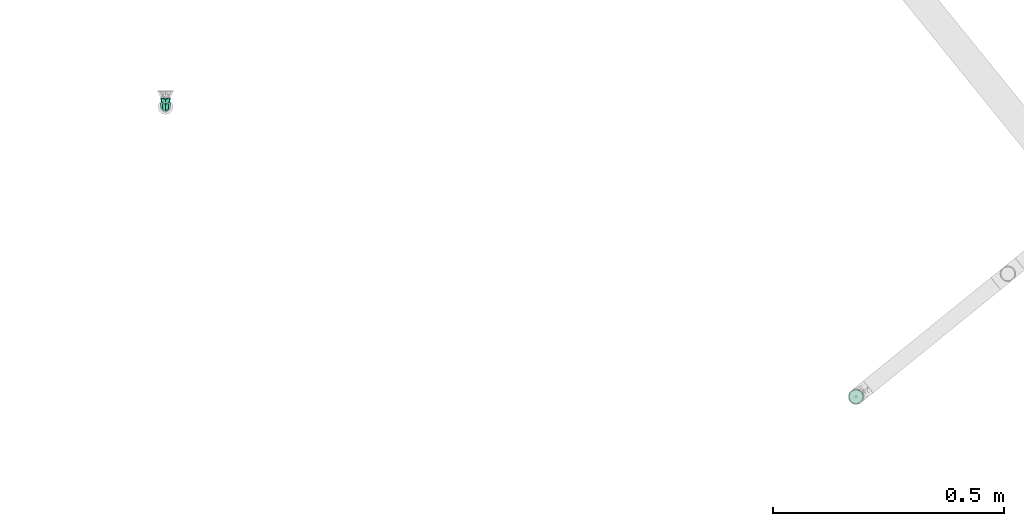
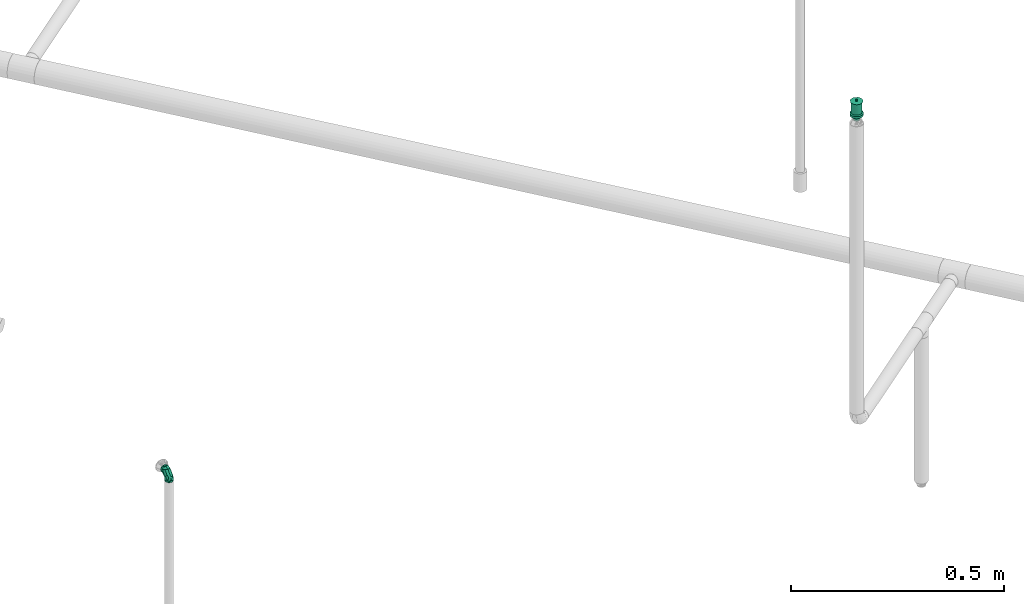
# One storey, part 66 of 94: 1 flow fitting, 1 flow terminal.
"""IFC2X3 building model written with IfcOpenShell, lengths in millimetres."""

import ifcopenshell
import ifcopenshell.guid

model = None  # the IFC model being written
_history = None  # IfcOwnerHistory: only IFC2X3 demands one
_inside = {}  # id of a spatial element -> (the spatial element, [elements in it])
_under = {}  # id of a project, library or spatial element -> (it, [spatial elements below it])
_declared = {}  # id of a project -> (the project, [libraries it declares])
_typed = {}  # id of a type object -> (the type object, [elements of that type])
_made_of = {}  # id of a material, layer set ... -> (it, [elements and type objects made of it])


def new_model(schema):
    """Start an empty IFC model of exactly this schema.

    Asked for "IFC4X3", IfcOpenShell would pick the latest addendum, in which some entities
    have other attributes; the version numbers below select the first issue.
    IFC2X3 requires an IfcOwnerHistory on every rooted entity: one is made here for all.
    """
    global model, _history
    if schema == "IFC4X3":
        model = ifcopenshell.file(schema_version=(4, 3, 0, 0))
    else:
        model = ifcopenshell.file(schema=schema)
    _inside.clear()
    _under.clear()
    _declared.clear()
    _typed.clear()
    _made_of.clear()
    _history = None
    if model.schema == "IFC2X3":
        org = make("IfcOrganization", Name="unknown")
        user = make(
            "IfcPersonAndOrganization",
            ThePerson=make("IfcPerson", FamilyName="unknown"),
            TheOrganization=org,
        )
        app = make(
            "IfcApplication",
            ApplicationDeveloper=org,
            Version="unknown",
            ApplicationFullName="unknown",
            ApplicationIdentifier="unknown",
        )
        _history = make(
            "IfcOwnerHistory",
            OwningUser=user,
            OwningApplication=app,
            ChangeAction="ADDED",
            CreationDate=0,
        )
    return model


def make(cls, **values):
    """One entity of the class cls with the attributes given. An attribute that is None is left unset."""
    return model.create_entity(
        cls, **{name: value for name, value in values.items() if value is not None}
    )


def entity(cls, *values):
    """Any entity or typed value of the class cls, its attributes in the order of the schema. None: left unset."""
    e = model.create_entity(cls)
    for i, value in enumerate(values):
        if value is not None:
            e[i] = value
    return e


def rooted(cls, **values):
    """An entity with a GlobalId (a new one), such as an element, a storey or a relation."""
    return make(cls, GlobalId=ifcopenshell.guid.new(), OwnerHistory=_history, **values)


def si_unit(unit_type, name, prefix=None):
    """IfcSIUnit, for example si_unit("LENGTHUNIT", "METRE", prefix="MILLI")."""
    return make("IfcSIUnit", UnitType=unit_type, Prefix=prefix, Name=name)


def converted_unit(unit_type, name, factor, base, dimensions=None, offset=None):
    """IfcConversionBasedUnit, such as the inch: factor (a typed value) times the base unit."""
    return make(
        "IfcConversionBasedUnit"
        if offset is None
        else "IfcConversionBasedUnitWithOffset",
        ConversionOffset=offset,
        Dimensions=None
        if dimensions is None
        else entity("IfcDimensionalExponents", *dimensions),
        UnitType=unit_type,
        Name=name,
        ConversionFactor=make(
            "IfcMeasureWithUnit", ValueComponent=factor, UnitComponent=base
        ),
    )


def derived_unit(unit_type, elements):
    """IfcDerivedUnit: a product of units, each with its exponent."""
    return make(
        "IfcDerivedUnit",
        Elements=[
            make("IfcDerivedUnitElement", Unit=unit, Exponent=power)
            for unit, power in elements
        ],
        UnitType=unit_type,
    )


def assignment(units):
    """IfcUnitAssignment: the units of a project."""
    return None if units is None else make("IfcUnitAssignment", Units=units)


def point(xyz):
    """IfcCartesianPoint."""
    return None if xyz is None else make("IfcCartesianPoint", Coordinates=xyz)


def direction(xyz):
    """IfcDirection."""
    return None if xyz is None else make("IfcDirection", DirectionRatios=xyz)


def frame(location, z_axis=None, x_axis=None):
    """IfcAxis2Placement3D, a coordinate frame: its origin and axes. An axis left out is left unset."""
    return make(
        "IfcAxis2Placement3D",
        Location=point(location),
        Axis=direction(z_axis),
        RefDirection=direction(x_axis),
    )


def origin_with_axes():
    """The frame at (0, 0, 0) with the z axis (0, 0, 1) and the x axis (1, 0, 0) written out."""
    return frame((0.0, 0.0, 0.0), z_axis=(0.0, 0.0, 1.0), x_axis=(1.0, 0.0, 0.0))


def place(relative_to, where):
    """IfcLocalPlacement: puts the frame where relative to a parent placement (None: the world)."""
    return make(
        "IfcLocalPlacement", PlacementRelTo=relative_to, RelativePlacement=where
    )


def context(
    kind, dimensions, precision=None, world=None, true_north=None, identifier=None
):
    """IfcGeometricRepresentationContext, for example the 3D "Model" context."""
    return make(
        "IfcGeometricRepresentationContext",
        ContextIdentifier=identifier,
        ContextType=kind,
        CoordinateSpaceDimension=dimensions,
        Precision=precision,
        WorldCoordinateSystem=world,
        TrueNorth=true_north,
    )


def subcontext(parent, identifier, kind, view, scale=None):
    """IfcGeometricRepresentationSubContext, for example "Body" below "Model"."""
    return make(
        "IfcGeometricRepresentationSubContext",
        ContextIdentifier=identifier,
        ContextType=kind,
        ParentContext=parent,
        TargetScale=scale,
        TargetView=view,
    )


def project(units=None, contexts=None):
    """IfcProject with its units and contexts."""
    return rooted(
        "IfcProject",
        Name="project",
        RepresentationContexts=contexts,
        UnitsInContext=assignment(units),
    )


def spatial(cls, under=None, at=None, **own):
    """A site, building, storey or space (cls), placed at a placement, below another one or the project."""
    s = rooted(cls, ObjectPlacement=at, **own)
    if under is not None:
        _under.setdefault(under.id(), (under, []))[1].append(s)
    return s


def faces_of(points, faces, orient=None, outer=None):
    """IfcFace entities. A face is a list of loops; a loop is a list of indices into points, from 0.

    orient and outer hold one flag for each loop. By default every Orientation is true, the
    first loop of a face is its IfcFaceOuterBound and the others are IfcFaceBound.
    """
    made = []
    for i, loops in enumerate(faces):
        bounds = []
        for j, loop in enumerate(loops):
            is_outer = j == 0 if outer is None else outer[i][j]
            bounds.append(
                make(
                    "IfcFaceOuterBound" if is_outer else "IfcFaceBound",
                    Bound=make("IfcPolyLoop", Polygon=[points[k] for k in loop]),
                    Orientation=True if orient is None else orient[i][j],
                )
            )
        made.append(make("IfcFace", Bounds=bounds))
    return made


def open_shell(faces, orient=None, outer=None):
    """The faces of one IfcOpenShell. surface_model builds it on its shared points."""
    return ("IfcOpenShell", faces, orient, outer)


def surface_model(cls, points, shells):
    """IfcFaceBasedSurfaceModel or IfcShellBasedSurfaceModel (cls): surfaces that need not close."""
    shared = [point(p) for p in points]
    made = [make(c, CfsFaces=faces_of(shared, fs, o, b)) for c, fs, o, b in shells]
    if cls == "IfcFaceBasedSurfaceModel":
        return make(cls, FbsmFaces=made)
    return make(cls, SbsmBoundary=made)


def shape(context_of_items, identifier, shape_type, items):
    """IfcShapeRepresentation: the items that make up one representation, for example the "Body"."""
    return make(
        "IfcShapeRepresentation",
        ContextOfItems=context_of_items,
        RepresentationIdentifier=identifier,
        RepresentationType=shape_type,
        Items=items,
    )


def source(mapping_origin, context_of_items, identifier, shape_type, items):
    """IfcRepresentationMap: a shape defined once, which mapped items show again and again."""
    return make(
        "IfcRepresentationMap",
        MappingOrigin=mapping_origin,
        MappedRepresentation=shape(context_of_items, identifier, shape_type, items),
    )


def transform(
    local_origin,
    x_axis=None,
    y_axis=None,
    z_axis=None,
    scale=None,
    scale2=None,
    scale3=None,
    uniform=True,
):
    """IfcCartesianTransformationOperator3D, or its non-uniform kind. x_axis, y_axis, z_axis: its Axis1, 2, 3."""
    if uniform:
        return make(
            "IfcCartesianTransformationOperator3D",
            Axis1=direction(x_axis),
            Axis2=direction(y_axis),
            LocalOrigin=point(local_origin),
            Scale=scale,
            Axis3=direction(z_axis),
        )
    return make(
        "IfcCartesianTransformationOperator3DnonUniform",
        Axis1=direction(x_axis),
        Axis2=direction(y_axis),
        LocalOrigin=point(local_origin),
        Scale=scale,
        Axis3=direction(z_axis),
        Scale2=scale2,
        Scale3=scale3,
    )


def mapped(mapping_source, mapping_target):
    """IfcMappedItem: shows the shape of a source again, moved by a transform."""
    return make(
        "IfcMappedItem", MappingSource=mapping_source, MappingTarget=mapping_target
    )


def made_of(thing, what):
    """Note that an element or type object is made of a material, layer set ...; save() writes the relation."""
    if what is not None:
        _made_of.setdefault(what.id(), (what, []))[1].append(thing)
    return thing


def type_object(cls, material=None, **own):
    """A type object (cls), such as IfcWallType, which elements share."""
    return made_of(rooted(cls, **own), material)


def element(
    cls,
    number,
    at=None,
    inside=None,
    cuts=None,
    type_object=None,
    material=None,
    context=None,
    identifier="Body",
    shape_type=None,
    held_by="IfcProductDefinitionShape",
    body=None,
    shapes=None,
    **own,
):
    """One element of the class cls, such as IfcWall. Its Tag is "e" and its number.

    at: its placement. inside: the storey or other place that contains it. cuts: it is an
    opening in that element (IfcRelVoidsElement). A single representation is given by context,
    identifier, shape_type and body (its items); several are given by shapes. held_by: the class
    of the entity that holds the representations. save() writes the other relations.
    """
    e = rooted(cls, Tag="e%d" % number, ObjectPlacement=at, **own)
    if body is not None:
        shapes = [shape(context, identifier, shape_type, body)]
    if shapes is not None:
        e.Representation = make(held_by, Representations=shapes)
    if inside is not None:
        _inside.setdefault(inside.id(), (inside, []))[1].append(e)
    if cuts is not None:
        rooted(
            "IfcRelVoidsElement", RelatingBuildingElement=cuts, RelatedOpeningElement=e
        )
    if type_object is not None:
        _typed.setdefault(type_object.id(), (type_object, []))[1].append(e)
    return made_of(e, material)


def aggregate(whole, parts):
    """IfcRelAggregates: a whole, such as a stair, and the parts it consists of."""
    return rooted("IfcRelAggregates", RelatingObject=whole, RelatedObjects=parts)


def save(model, path):
    """Write the relations noted so far, then the file.

    IfcRelAggregates (storeys below a building ...), IfcRelContainedInSpatialStructure (elements
    in a storey), IfcRelDefinesByType, IfcRelAssociatesMaterial and IfcRelDeclares: one each for
    every whole, place, type object, material and project.
    """
    for whole, parts in _under.values():
        aggregate(whole, parts)
    for where, things in _inside.values():
        rooted(
            "IfcRelContainedInSpatialStructure",
            RelatedElements=things,
            RelatingStructure=where,
        )
    for kind, things in _typed.values():
        rooted("IfcRelDefinesByType", RelatedObjects=things, RelatingType=kind)
    for what, things in _made_of.values():
        rooted("IfcRelAssociatesMaterial", RelatedObjects=things, RelatingMaterial=what)
    for by, libraries in _declared.values():
        rooted("IfcRelDeclares", RelatingContext=by, RelatedDefinitions=libraries)
    model.write(path)


model = new_model("IFC2X3")

# Units and contexts
model_context = context("Model", 3, precision=0.01, world=frame((0.0, 4.29681676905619e-09, 0.0)), true_north=direction((4.01073788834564e-13, 1.0)))
plan_context = context("Plan", 3, precision=0.01, world=frame((0.0, 4.29681676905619e-09, 0.0)), true_north=direction((4.01073788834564e-13, 1.0)))
body_context = subcontext(model_context, "Body", "Model", "MODEL_VIEW")
ifc_project = project(units=[converted_unit("PLANEANGLEUNIT", "DEGREE", entity("IfcPositiveLengthMeasure", 0.0174532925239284), si_unit("PLANEANGLEUNIT", "RADIAN"), dimensions=[0, 0, 0, 0, 0, 0, 0]), si_unit("AREAUNIT", "SQUARE_METRE"), si_unit("LENGTHUNIT", "METRE", prefix="MILLI"), si_unit("MASSUNIT", "GRAM", prefix="KILO"), si_unit("POWERUNIT", "WATT"), si_unit("PRESSUREUNIT", "PASCAL", prefix="KILO"), si_unit("FORCEUNIT", "NEWTON", prefix="KILO"), si_unit("ELECTRICVOLTAGEUNIT", "VOLT"), si_unit("ELECTRICCURRENTUNIT", "AMPERE"), si_unit("THERMODYNAMICTEMPERATUREUNIT", "DEGREE_CELSIUS"), si_unit("TIMEUNIT", "SECOND"), si_unit("VOLUMEUNIT", "CUBIC_METRE"), derived_unit("LINEARVELOCITYUNIT", [(si_unit("LENGTHUNIT", "METRE"), 1), (si_unit("TIMEUNIT", "SECOND"), -1)]), derived_unit("VOLUMETRICFLOWRATEUNIT", [(si_unit("VOLUMEUNIT", "CUBIC_METRE"), 1), (si_unit("TIMEUNIT", "SECOND"), -1)]), derived_unit("THERMALTRANSMITTANCEUNIT", [(si_unit("POWERUNIT", "WATT"), 1), (si_unit("THERMODYNAMICTEMPERATUREUNIT", "KELVIN"), -1), (si_unit("AREAUNIT", "SQUARE_METRE"), -1)]), derived_unit("SOUNDPRESSUREUNIT", [(si_unit("PRESSUREUNIT", "PASCAL"), 1)])], contexts=[model_context, plan_context])

# Site, building, storey
site_placement = place(None, frame((0.0, -4.29681676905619e-09, 0.0), z_axis=(0.0, 0.0, 1.0), x_axis=(1.0, 0.0, 0.0)))
site = spatial("IfcSite", under=ifc_project, at=site_placement, CompositionType="ELEMENT")
building_placement = place(site_placement, frame((0.0, 4.29681676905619e-09, 0.0), z_axis=(0.0, 0.0, 1.0), x_axis=(1.0, 0.0, 0.0)))
building = spatial("IfcBuilding", under=site, at=building_placement, Name="mc-building", CompositionType="ELEMENT")
storey_placement = place(building_placement, frame((0.0, 0.0, 210900.0), z_axis=(0.0, 0.0, 1.0), x_axis=(1.0, 0.0, 0.0)))
storey = spatial("IfcBuildingStorey", under=building, at=storey_placement, Name="Nivå F", CompositionType="ELEMENT", Elevation=210900.0)

# Flow fitting
pipe_fitting_type = type_object("IfcPipeFittingType", Name="magi_pipe_fe_elbow_short_001", PredefinedType="BEND")
shared_shape_1 = source(origin_with_axes(), body_context, "Body", "SurfaceModel", [
    surface_model("IfcShellBasedSurfaceModel", [(-21.4, 2.76936, -10.33541), (-21.4, 0.0, -10.7), (-21.4, 7.56604, -7.56604), (-21.4, 5.35, -9.26647), (-21.4, 10.33541, -2.76936), (-21.4, 9.26647, -5.35), (-21.4, -7.56604, 7.56604), (-21.4, -5.35, -9.26647), (-21.4, -5.35, 9.26647), (-21.4, -7.56604, -7.56604), (-21.4, -9.26647, -5.35), (-21.4, -2.76936, -10.33541), (-21.4, -10.33541, -2.76936), (-21.4, -10.7, 0.0), (-21.4, 10.7, 0.0), (-21.4, 10.33541, 2.76936), (-21.4, 9.26647, 5.35), (-21.4, 7.56604, 7.56604), (-21.4, 5.35, 9.26647), (-21.4, 2.76936, 10.33541), (-21.4, -10.33541, 2.76936), (-21.4, -9.26647, 5.35), (-21.4, -2.76936, 10.33541), (-21.4, 0.0, 10.7), (-7.56604, 21.4, -7.56604), (0.0, 21.4, -10.7), (-2.76936, 21.4, -10.33541), (-5.35, 21.4, -9.26647), (-9.26647, 21.4, -5.35), (-10.33541, 21.4, -2.76936), (10.7, 21.4, 0.0), (5.35, 21.4, -9.26647), (9.26647, 21.4, -5.35), (7.56604, 21.4, -7.56604), (2.76936, 21.4, -10.33541), (10.33541, 21.4, -2.76936), (-10.33541, 21.4, 2.76936), (5.35, 21.4, 9.26647), (-7.56604, 21.4, 7.56604), (-9.26647, 21.4, 5.35), (-5.35, 21.4, 9.26647), (-2.76936, 21.4, 10.33541), (9.26647, 21.4, 5.35), (10.33541, 21.4, 2.76936), (7.56604, 21.4, 7.56604), (0.0, 21.4, 10.7), (2.76936, 21.4, 10.33541), (-10.7, 21.4, 0.0), (-17.99408, -9.78739, 0.0), (-9.96908, -7.6371, 0.0), (-9.09404, -6.9243, 4.95785), (-14.48689, -7.04149, 7.24979), (5.63065, 8.24892, 6.28438), (2.06258, 3.09852, 6.68299), (3.46206, 2.41265, 0.0), (0.98571, 10.3211, 10.08431), (-14.58817, -8.87478, 0.0), (5.00363, 14.04705, 8.8538), (-11.43216, -3.30045, 9.33143), (7.6371, 9.96908, 0.0), (8.87478, 14.58817, 0.0), (-7.84024, 13.84213, 8.94205), (-3.62699, 16.02976, 10.31804), (-15.33449, 3.33478, 10.44017), (-7.99137, -0.64527, 9.75219), (-12.26698, 17.61698, 0.0), (-13.83396, 13.83396, 0.0), (-5.22925, -4.43288, 5.66596), (6.39942, 5.35, 0.0), (-15.15468, 10.16047, 6.44408), (-10.16467, 10.01422, 9.23503), (9.78739, 17.99408, 0.0), (-7.22951, 3.98894, 10.64848), (-2.16379, -1.00373, 6.95774), (0.52471, -0.52471, 0.0), (-2.94157, 6.97816, 10.50675), (-17.61698, 12.26698, 0.0), (-2.41265, -3.46206, 0.0), (-5.35, -6.39942, 0.0), (-8.83498, -0.07405, -10.11828), (-2.16379, -1.00373, -6.95774), (-5.8406, -4.06158, -6.57779), (-7.84024, 13.84213, -8.94205), (-15.33449, 3.33478, -10.44017), (-11.43216, -3.30045, -9.33143), (-15.15468, 10.16047, -6.44408), (-7.22951, 3.98894, -10.64848), (-10.16467, 10.01422, -9.23503), (2.06258, 3.09852, -6.68299), (-2.94157, 6.97816, -10.50675), (-14.48689, -7.04149, -7.24979), (5.00363, 14.04705, -8.8538), (-3.62699, 16.02976, -10.31804), (0.98571, 10.3211, -10.08431), (5.63065, 8.24892, -6.28438), (-9.09404, -6.9243, -4.95785)], [open_shell([[[0, 1, 2]], [[3, 0, 2]], [[4, 5, 2]], [[6, 1, 7]], [[1, 8, 2]], [[9, 10, 7]], [[1, 11, 7]], [[12, 13, 10]], [[7, 10, 13]], [[13, 6, 7]], [[4, 2, 14]], [[8, 15, 2]], [[16, 15, 17]], [[8, 18, 15]], [[17, 15, 18]], [[18, 8, 19]], [[20, 21, 13]], [[13, 21, 6]], [[22, 23, 8]], [[6, 8, 1]], [[8, 23, 19]], [[15, 14, 2]], [[24, 25, 26]], [[24, 26, 27]], [[24, 28, 29]], [[24, 29, 25]], [[25, 29, 30]], [[31, 32, 33]], [[31, 34, 25]], [[32, 30, 35]], [[30, 32, 31]], [[25, 30, 31]], [[29, 36, 30]], [[30, 36, 37]], [[38, 36, 39]], [[36, 40, 37]], [[40, 36, 38]], [[41, 37, 40]], [[30, 42, 43]], [[44, 42, 30]], [[37, 45, 46]], [[30, 37, 44]], [[41, 45, 37]], [[29, 47, 36]], [[21, 20, 48]], [[49, 50, 51]], [[52, 53, 54]], [[52, 55, 53]], [[51, 6, 56]], [[6, 21, 56]], [[41, 57, 45]], [[23, 51, 58]], [[51, 22, 8]], [[57, 59, 60]], [[61, 55, 62]], [[63, 58, 64]], [[65, 66, 61]], [[51, 23, 22]], [[23, 58, 19]], [[67, 58, 50]], [[54, 68, 52]], [[63, 17, 18]], [[20, 13, 48]], [[14, 15, 69]], [[16, 17, 63]], [[62, 40, 38]], [[19, 58, 63]], [[16, 69, 15]], [[63, 18, 19]], [[59, 52, 68]], [[60, 44, 37]], [[57, 46, 45]], [[69, 70, 66]], [[52, 59, 57]], [[39, 62, 38]], [[60, 42, 44]], [[37, 57, 60]], [[37, 46, 57]], [[6, 51, 8]], [[43, 71, 30]], [[51, 56, 49]], [[70, 69, 72]], [[73, 74, 53]], [[75, 72, 73]], [[16, 63, 69]], [[47, 65, 36]], [[42, 71, 43]], [[55, 57, 62]], [[52, 57, 55]], [[41, 40, 62]], [[60, 71, 42]], [[36, 61, 39]], [[48, 56, 21]], [[61, 62, 39]], [[62, 57, 41]], [[69, 63, 72]], [[53, 75, 73]], [[69, 66, 76]], [[67, 64, 58]], [[75, 53, 55]], [[67, 77, 73]], [[55, 61, 75]], [[70, 75, 61]], [[50, 49, 78]], [[67, 50, 78]], [[51, 50, 58]], [[77, 74, 73]], [[73, 72, 64]], [[67, 78, 77]], [[73, 64, 67]], [[63, 64, 72]], [[36, 65, 61]], [[75, 70, 72]], [[14, 69, 76]], [[66, 70, 61]], [[53, 74, 54]], [[79, 80, 81]], [[65, 29, 82]], [[3, 2, 83]], [[0, 84, 1]], [[4, 14, 85]], [[10, 48, 12]], [[83, 5, 85]], [[85, 5, 4]], [[86, 85, 87]], [[83, 86, 79]], [[83, 84, 0]], [[48, 13, 12]], [[80, 77, 81]], [[88, 80, 89]], [[10, 9, 56]], [[7, 11, 90]], [[91, 31, 60]], [[9, 7, 90]], [[90, 11, 1]], [[84, 90, 1]], [[9, 90, 56]], [[28, 92, 82]], [[5, 83, 2]], [[85, 14, 76]], [[80, 88, 74]], [[82, 66, 65]], [[93, 82, 92]], [[28, 82, 29]], [[28, 24, 92]], [[24, 27, 92]], [[71, 60, 32]], [[91, 92, 26]], [[56, 48, 10]], [[35, 30, 71]], [[27, 26, 92]], [[94, 88, 93]], [[25, 91, 26]], [[31, 91, 34]], [[83, 0, 3]], [[94, 93, 91]], [[33, 60, 31]], [[89, 93, 88]], [[34, 91, 25]], [[71, 32, 35]], [[92, 91, 93]], [[59, 91, 60]], [[86, 83, 85]], [[95, 78, 49]], [[33, 32, 60]], [[66, 87, 85]], [[94, 59, 68]], [[89, 80, 86]], [[49, 56, 90]], [[94, 54, 88]], [[59, 94, 91]], [[95, 90, 84]], [[87, 89, 86]], [[82, 93, 89]], [[81, 78, 95]], [[90, 95, 49]], [[81, 95, 84]], [[79, 81, 84]], [[82, 87, 66]], [[83, 79, 84]], [[80, 79, 86]], [[77, 80, 74]], [[77, 78, 81]], [[47, 29, 65]], [[76, 66, 85]], [[89, 87, 82]], [[54, 94, 68]], [[54, 74, 88]]])]),
])
flow_fitting_placement = place(storey_placement, frame((725000.0, 442200.7, 3500.0), z_axis=(-1.0, 0.0, 0.0), x_axis=(0.0, 0.0, 1.0)))
element("IfcFlowFitting", 1, at=flow_fitting_placement, inside=storey, type_object=pipe_fitting_type, Name="magi_pipe_fe_elbow_short_001", context=body_context, shape_type="MappedRepresentation", body=[
    mapped(shared_shape_1, transform((0.0, 0.0, 0.0), scale=1.0)),
])

# Flow terminal
fire_suppression_terminal_type = type_object("IfcFireSuppressionTerminalType", Name="68DGR-STD-STÅENDE", PredefinedType="NOTDEFINED")
shared_shape_2 = source(origin_with_axes(), body_context, "Body", "SurfaceModel", [
    surface_model("IfcShellBasedSurfaceModel", [(3.36465, -12.55704, 51.0), (6.5, -11.25833, 51.0), (9.19239, -9.19239, 51.0), (12.55704, -3.36465, 51.0), (-11.25833, -6.5, 51.0), (11.25833, -6.5, 51.0), (-13.0, 0.0, 51.0), (0.0, -13.0, 51.0), (-6.5, -11.25833, 51.0), (-3.36465, -12.55704, 51.0), (-9.19239, -9.19239, 51.0), (-12.55704, -3.36465, 51.0), (13.0, 0.0, 51.0), (12.55704, 3.36465, 51.0), (11.25833, 6.5, 51.0), (9.19239, 9.19239, 51.0), (6.5, 11.25833, 51.0), (3.36465, 12.55704, 51.0), (0.0, 13.0, 51.0), (-3.36465, 12.55704, 51.0), (-12.55704, 3.36465, 51.0), (-9.19239, 9.19239, 51.0), (-11.25833, 6.5, 51.0), (-6.5, 11.25833, 51.0), (0.0, 13.0, 21.14766), (3.36465, 12.55704, 21.14766), (6.5, 11.25833, 21.14766), (-3.36465, 12.55704, 21.14766), (9.19239, 9.19239, 21.14766), (11.25833, 6.5, 21.14766), (12.55704, 3.36465, 21.14766), (-12.55704, 3.36465, 21.14766), (-11.25833, -6.5, 21.14766), (-9.19239, 9.19239, 21.14766), (-6.5, 11.25833, 21.14766), (-11.25833, 6.5, 21.14766), (-13.0, 0.0, 21.14766), (12.55704, -3.36465, 21.14766), (9.19239, -9.19239, 21.14766), (11.25833, -6.5, 21.14766), (6.5, -11.25833, 21.14766), (3.36465, -12.55704, 21.14766), (-6.5, -11.25833, 21.14766), (-9.19239, -9.19239, 21.14766), (-12.55704, -3.36465, 21.14766), (0.0, -13.0, 21.14766), (-3.36465, -12.55704, 21.14766), (13.0, 0.0, 21.14766), (7.24444, -1.94114, 0.1), (1.94114, -7.24444, 0.1), (3.75, -6.49519, 0.1), (5.3033, -5.3033, 0.1), (-5.3033, -5.3033, 0.1), (6.49519, -3.75, 0.1), (5.3033, 5.3033, 0.1), (0.0, -7.5, 0.1), (-3.75, -6.49519, 0.1), (-1.94114, -7.24444, 0.1), (-7.24444, -1.94114, 0.1), (-6.49519, -3.75, 0.1), (-7.24444, 1.94114, 0.1), (7.5, 0.0, 0.1), (6.49519, 3.75, 0.1), (-6.49519, 3.75, 0.1), (1.94114, 7.24444, 0.1), (0.0, 7.5, 0.1), (3.75, 6.49519, 0.1), (-7.5, 0.0, 0.1), (-5.3033, 5.3033, 0.1), (-1.94114, 7.24444, 0.1), (-3.75, 6.49519, 0.1), (7.24444, 1.94114, 0.1), (1.94114, 7.24444, -0.1), (-6.49519, 3.75, -0.1), (0.0, 7.5, -0.1), (5.3033, 5.3033, -0.1), (3.75, 6.49519, -0.1), (6.49519, 3.75, -0.1), (7.24444, 1.94114, -0.1), (-1.94114, 7.24444, -0.1), (-5.3033, 5.3033, -0.1), (-3.75, 6.49519, -0.1), (-7.24444, 1.94114, -0.1), (-7.24444, -1.94114, -0.1), (-7.5, 0.0, -0.1), (7.5, 0.0, -0.1), (7.24444, -1.94114, -0.1), (-5.3033, -5.3033, -0.1), (1.94114, -7.24444, -0.1), (6.49519, -3.75, -0.1), (5.3033, -5.3033, -0.1), (3.75, -6.49519, -0.1), (-6.49519, -3.75, -0.1), (-3.75, -6.49519, -0.1), (0.0, -7.5, -0.1), (-1.94114, -7.24444, -0.1), (0.0, -2.5, 51.0), (-2.5, 0.0, 51.0), (0.0, 2.5, 51.0), (2.5, 0.0, 51.0), (0.0, -16.0, 53.0), (11.31371, -11.31371, 53.0), (-11.31371, -11.31371, 53.0), (-16.0, 0.0, 53.0), (16.0, 0.0, 53.0), (11.31371, 11.31371, 53.0), (0.0, 16.0, 53.0), (-11.31371, 11.31371, 53.0), (1.25, -2.16506, 57.0), (0.0, -2.5, 57.0), (0.64705, -2.41481, 57.0), (2.41481, -0.64705, 57.0), (1.76777, -1.76777, 57.0), (-2.41481, -0.64705, 57.0), (-2.5, 0.0, 57.0), (2.16506, -1.25, 57.0), (-1.25, -2.16506, 57.0), (-0.64705, -2.41481, 57.0), (-1.76777, -1.76777, 57.0), (-2.16506, -1.25, 57.0), (2.5, 0.0, 57.0), (2.41481, 0.64705, 57.0), (2.16506, 1.25, 57.0), (1.76777, 1.76777, 57.0), (0.64705, 2.41481, 57.0), (1.25, 2.16506, 57.0), (-1.76777, 1.76777, 57.0), (0.0, 2.5, 57.0), (-2.16506, 1.25, 57.0), (-2.41481, 0.64705, 57.0), (-0.64705, 2.41481, 57.0), (-1.25, 2.16506, 57.0), (1.25, 2.16506, 51.0), (1.76777, 1.76777, 51.0), (1.15, 1.99186, 51.0), (0.59528, 2.22163, 51.0), (0.64705, 2.41481, 51.0), (0.0, 2.3, 51.0), (1.62635, 1.62635, 51.0), (2.41481, 0.64705, 51.0), (2.3, 0.0, 51.0), (2.22163, 0.59528, 51.0), (2.16506, 1.25, 51.0), (1.99186, 1.15, 51.0), (-0.59528, 2.22163, 51.0), (-0.64705, 2.41481, 51.0), (-1.15, 1.99186, 51.0), (-1.76777, 1.76777, 51.0), (-1.25, 2.16506, 51.0), (-1.62635, 1.62635, 51.0), (-1.99186, 1.15, 51.0), (-2.16506, 1.25, 51.0), (-2.22163, 0.59528, 51.0), (-2.41481, 0.64705, 51.0), (-2.3, 0.0, 51.0), (2.41481, -0.64705, 51.0), (2.22163, -0.59528, 51.0), (1.99186, -1.15, 51.0), (2.16506, -1.25, 51.0), (1.62635, -1.62635, 51.0), (1.76777, -1.76777, 51.0), (1.25, -2.16506, 51.0), (1.15, -1.99186, 51.0), (0.59528, -2.22163, 51.0), (0.64705, -2.41481, 51.0), (0.0, -2.3, 51.0), (-2.16506, -1.25, 51.0), (-1.99186, -1.15, 51.0), (-1.76777, -1.76777, 51.0), (-1.62635, -1.62635, 51.0), (-2.41481, -0.64705, 51.0), (-2.22163, -0.59528, 51.0), (-0.59528, -2.22163, 51.0), (-0.64705, -2.41481, 51.0), (-1.15, -1.99186, 51.0), (-1.25, -2.16506, 51.0), (1.62635, -1.62635, 56.8), (1.15, -1.99186, 56.8), (0.59528, -2.22163, 56.8), (0.0, -2.3, 56.8), (2.22163, 0.59528, 56.8), (1.99186, -1.15, 56.8), (2.22163, -0.59528, 56.8), (-0.59528, -2.22163, 56.8), (-1.15, -1.99186, 56.8), (-1.62635, -1.62635, 56.8), (-1.99186, -1.15, 56.8), (-2.22163, -0.59528, 56.8), (-1.99186, 1.15, 56.8), (2.3, 0.0, 56.8), (1.62635, 1.62635, 56.8), (1.99186, 1.15, 56.8), (1.15, 1.99186, 56.8), (0.0, 2.3, 56.8), (0.59528, 2.22163, 56.8), (-2.22163, 0.59528, 56.8), (-2.3, 0.0, 56.8), (-1.15, 1.99186, 56.8), (-0.59528, 2.22163, 56.8), (-1.62635, 1.62635, 56.8), (4.1411, -15.45481, 19.0), (8.0, -13.85641, 19.0), (11.31371, -11.31371, 19.0), (-8.0, -13.85641, 19.0), (15.45481, -4.1411, 19.0), (16.0, 0.0, 19.0), (13.85641, -8.0, 19.0), (0.0, -16.0, 19.0), (-4.1411, -15.45481, 19.0), (-13.85641, -8.0, 19.0), (-11.31371, -11.31371, 19.0), (-15.45481, -4.1411, 19.0), (15.45481, 4.1411, 19.0), (13.85641, 8.0, 19.0), (11.31371, 11.31371, 19.0), (-4.1411, 15.45481, 19.0), (8.0, 13.85641, 19.0), (4.1411, 15.45481, 19.0), (0.0, 16.0, 19.0), (-13.85641, 8.0, 19.0), (-15.45481, 4.1411, 19.0), (-16.0, 0.0, 19.0), (-11.31371, 11.31371, 19.0), (-8.0, 13.85641, 19.0), (0.0, 16.0, 13.0), (4.1411, 15.45481, 13.0), (8.0, 13.85641, 13.0), (-4.1411, 15.45481, 13.0), (11.31371, 11.31371, 13.0), (13.85641, 8.0, 13.0), (15.45481, 4.1411, 13.0), (-15.45481, -4.1411, 13.0), (-11.31371, 11.31371, 13.0), (-8.0, 13.85641, 13.0), (-13.85641, 8.0, 13.0), (-15.45481, 4.1411, 13.0), (-16.0, 0.0, 13.0), (4.1411, -15.45481, 13.0), (16.0, 0.0, 13.0), (15.45481, -4.1411, 13.0), (13.85641, -8.0, 13.0), (11.31371, -11.31371, 13.0), (8.0, -13.85641, 13.0), (-8.0, -13.85641, 13.0), (-13.85641, -8.0, 13.0), (-11.31371, -11.31371, 13.0), (0.0, -16.0, 13.0), (-4.1411, -15.45481, 13.0), (7.24444, -1.94114, 13.0), (1.94114, -7.24444, 13.0), (3.75, -6.49519, 13.0), (5.3033, -5.3033, 13.0), (-5.3033, -5.3033, 13.0), (6.49519, -3.75, 13.0), (5.3033, 5.3033, 13.0), (0.0, -7.5, 13.0), (-3.75, -6.49519, 13.0), (-1.94114, -7.24444, 13.0), (-7.24444, -1.94114, 13.0), (-6.49519, -3.75, 13.0), (-7.24444, 1.94114, 13.0), (7.5, 0.0, 13.0), (6.49519, 3.75, 13.0), (-6.49519, 3.75, 13.0), (1.94114, 7.24444, 13.0), (0.0, 7.5, 13.0), (3.75, 6.49519, 13.0), (-7.5, 0.0, 13.0), (-5.3033, 5.3033, 13.0), (-1.94114, 7.24444, 13.0), (-3.75, 6.49519, 13.0), (7.24444, 1.94114, 13.0), (3.75, 6.49519, 0.0), (5.3033, 5.3033, 0.0), (3.65, 6.32199, 0.0), (1.88938, 7.05126, 0.0), (0.0, 7.3, 0.0), (1.94114, 7.24444, 0.0), (0.0, 7.5, 0.0), (5.16188, 5.16188, 0.0), (7.24444, 1.94114, 0.0), (7.3, 0.0, 0.0), (7.05126, 1.88938, 0.0), (7.5, 0.0, 0.0), (6.49519, 3.75, 0.0), (6.32199, 3.65, 0.0), (-1.88938, 7.05126, 0.0), (-1.94114, 7.24444, 0.0), (-3.65, 6.32199, 0.0), (-5.3033, 5.3033, 0.0), (-3.75, 6.49519, 0.0), (-5.16188, 5.16188, 0.0), (-6.32199, 3.65, 0.0), (-6.49519, 3.75, 0.0), (-7.05126, 1.88938, 0.0), (-7.24444, 1.94114, 0.0), (-7.3, 0.0, 0.0), (-7.5, 0.0, 0.0), (7.24444, -1.94114, 0.0), (7.05126, -1.88938, 0.0), (6.32199, -3.65, 0.0), (6.49519, -3.75, 0.0), (5.16188, -5.16188, 0.0), (5.3033, -5.3033, 0.0), (3.75, -6.49519, 0.0), (3.65, -6.32199, 0.0), (1.88938, -7.05126, 0.0), (1.94114, -7.24444, 0.0), (0.0, -7.3, 0.0), (0.0, -7.5, 0.0), (-6.49519, -3.75, 0.0), (-6.32199, -3.65, 0.0), (-5.3033, -5.3033, 0.0), (-5.16188, -5.16188, 0.0), (-7.24444, -1.94114, 0.0), (-7.05126, -1.88938, 0.0), (-1.88938, -7.05126, 0.0), (-1.94114, -7.24444, 0.0), (-3.65, -6.32199, 0.0), (-3.75, -6.49519, 0.0), (1.88938, -7.05126, 12.8), (0.0, -7.3, 12.8), (3.65, -6.32199, 12.8), (5.16188, -5.16188, 12.8), (6.32199, -3.65, 12.8), (7.05126, 1.88938, 12.8), (7.05126, -1.88938, 12.8), (-5.16188, -5.16188, 12.8), (-1.88938, -7.05126, 12.8), (-3.65, -6.32199, 12.8), (-6.32199, -3.65, 12.8), (-7.05126, -1.88938, 12.8), (0.0, 7.3, 12.8), (7.3, 0.0, 12.8), (6.32199, 3.65, 12.8), (5.16188, 5.16188, 12.8), (3.65, 6.32199, 12.8), (1.88938, 7.05126, 12.8), (-6.32199, 3.65, 12.8), (-7.05126, 1.88938, 12.8), (-7.3, 0.0, 12.8), (-3.65, 6.32199, 12.8), (-1.88938, 7.05126, 12.8), (-5.16188, 5.16188, 12.8)], [open_shell([[[0, 1, 2]], [[0, 2, 3]], [[0, 3, 4]], [[3, 2, 5]], [[6, 4, 3]], [[7, 8, 9]], [[7, 0, 8]], [[8, 4, 10]], [[0, 4, 8]], [[4, 6, 11]], [[6, 3, 12]], [[13, 14, 15]], [[6, 13, 15]], [[16, 17, 18]], [[15, 16, 19]], [[18, 19, 16]], [[20, 21, 22]], [[20, 6, 15]], [[21, 19, 23]], [[19, 21, 20]], [[15, 19, 20]], [[13, 6, 12]], [[24, 25, 26]], [[27, 24, 26]], [[28, 29, 30]], [[26, 28, 31]], [[28, 32, 31]], [[27, 33, 34]], [[33, 27, 31]], [[33, 31, 35]], [[27, 26, 31]], [[31, 32, 36]], [[32, 28, 30]], [[32, 30, 37]], [[38, 37, 39]], [[38, 40, 41]], [[38, 41, 37]], [[32, 37, 41]], [[32, 42, 43]], [[44, 36, 32]], [[42, 45, 46]], [[42, 32, 41]], [[45, 42, 41]], [[30, 47, 37]], [[4, 32, 43]], [[8, 42, 46]], [[43, 42, 10]], [[9, 46, 45]], [[36, 11, 6]], [[11, 36, 44]], [[11, 44, 4]], [[44, 32, 4]], [[43, 10, 4]], [[8, 10, 42]], [[46, 9, 8]], [[45, 7, 9]], [[0, 41, 40]], [[38, 1, 40]], [[5, 39, 37]], [[38, 39, 2]], [[3, 37, 47]], [[41, 0, 7]], [[40, 1, 0]], [[38, 2, 1]], [[39, 5, 2]], [[3, 5, 37]], [[47, 12, 3]], [[41, 7, 45]], [[30, 13, 47]], [[29, 14, 30]], [[25, 24, 17]], [[15, 29, 28]], [[30, 14, 13]], [[13, 12, 47]], [[16, 26, 17]], [[16, 15, 28]], [[26, 25, 17]], [[15, 14, 29]], [[28, 26, 16]], [[24, 18, 17]], [[19, 27, 34]], [[33, 23, 34]], [[22, 35, 31]], [[33, 35, 21]], [[20, 31, 36]], [[27, 19, 18]], [[34, 23, 19]], [[33, 21, 23]], [[35, 22, 21]], [[20, 22, 31]], [[36, 6, 20]], [[27, 18, 24]], [[48, 49, 50]], [[48, 50, 51]], [[49, 48, 52]], [[48, 51, 53]], [[54, 52, 48]], [[55, 56, 57]], [[56, 55, 52]], [[52, 58, 59]], [[52, 55, 49]], [[52, 60, 58]], [[54, 48, 61]], [[62, 54, 61]], [[54, 63, 52]], [[64, 65, 54]], [[64, 54, 66]], [[63, 54, 65]], [[63, 60, 52]], [[67, 58, 60]], [[68, 69, 70]], [[69, 68, 63]], [[69, 63, 65]], [[71, 62, 61]], [[72, 73, 74]], [[75, 72, 76]], [[75, 77, 78]], [[72, 75, 73]], [[78, 73, 75]], [[79, 80, 81]], [[80, 79, 73]], [[74, 73, 79]], [[78, 82, 73]], [[82, 83, 84]], [[82, 78, 85]], [[86, 87, 85]], [[88, 86, 89]], [[90, 91, 88]], [[90, 88, 89]], [[87, 86, 88]], [[83, 87, 92]], [[83, 85, 87]], [[93, 94, 95]], [[94, 93, 87]], [[88, 94, 87]], [[85, 83, 82]], [[83, 58, 84]], [[92, 59, 83]], [[56, 87, 93]], [[92, 87, 52]], [[57, 93, 95]], [[83, 59, 58]], [[58, 67, 84]], [[57, 56, 93]], [[52, 87, 56]], [[52, 59, 92]], [[55, 57, 95]], [[95, 94, 55]], [[88, 49, 94]], [[91, 50, 88]], [[53, 90, 89]], [[91, 90, 51]], [[48, 89, 86]], [[91, 51, 50]], [[50, 49, 88]], [[61, 48, 86]], [[53, 89, 48]], [[53, 51, 90]], [[85, 61, 86]], [[94, 49, 55]], [[78, 71, 85]], [[77, 62, 78]], [[66, 75, 76]], [[77, 75, 54]], [[64, 76, 72]], [[78, 62, 71]], [[71, 61, 85]], [[64, 66, 76]], [[54, 75, 66]], [[54, 62, 77]], [[65, 64, 72]], [[72, 74, 65]], [[79, 69, 74]], [[81, 70, 79]], [[63, 80, 73]], [[81, 80, 68]], [[60, 73, 82]], [[81, 68, 70]], [[70, 69, 79]], [[67, 60, 82]], [[63, 73, 60]], [[63, 68, 80]], [[84, 67, 82]], [[74, 69, 65]], [[96, 97, 98]], [[98, 99, 96]], [[100, 101, 102]], [[103, 102, 101]], [[101, 104, 103]], [[104, 105, 106]], [[107, 103, 106]], [[106, 103, 104]], [[99, 98, 105]], [[105, 104, 99]], [[98, 106, 105]], [[98, 107, 106]], [[107, 98, 97]], [[103, 107, 97]], [[97, 96, 102]], [[102, 103, 97]], [[96, 100, 102]], [[96, 101, 100]], [[101, 96, 99]], [[104, 101, 99]], [[108, 109, 110]], [[111, 108, 112]], [[113, 108, 114]], [[111, 112, 115]], [[108, 111, 114]], [[109, 116, 117]], [[116, 109, 118]], [[118, 113, 119]], [[118, 109, 108]], [[108, 113, 118]], [[111, 120, 114]], [[121, 122, 123]], [[114, 121, 123]], [[114, 123, 124]], [[124, 123, 125]], [[126, 124, 127]], [[124, 128, 129]], [[129, 114, 124]], [[126, 130, 131]], [[128, 124, 126]], [[130, 126, 127]], [[121, 114, 120]], [[132, 133, 134]], [[132, 134, 135]], [[136, 135, 137]], [[135, 136, 132]], [[136, 137, 98]], [[134, 133, 138]], [[139, 140, 141]], [[140, 139, 99]], [[139, 141, 142]], [[138, 142, 143]], [[142, 138, 133]], [[143, 142, 141]], [[98, 144, 145]], [[98, 137, 144]], [[145, 144, 146]], [[147, 148, 149]], [[146, 148, 145]], [[149, 148, 146]], [[150, 151, 147]], [[151, 150, 152]], [[150, 147, 149]], [[153, 152, 154]], [[152, 153, 151]], [[153, 154, 97]], [[99, 155, 156]], [[156, 155, 157]], [[157, 158, 159]], [[158, 157, 155]], [[159, 158, 160]], [[160, 161, 162]], [[162, 161, 163]], [[163, 164, 165]], [[164, 163, 161]], [[165, 164, 96]], [[162, 159, 160]], [[166, 167, 168]], [[168, 167, 169]], [[167, 166, 170]], [[97, 171, 170]], [[170, 171, 167]], [[97, 154, 171]], [[172, 96, 173]], [[172, 173, 174]], [[169, 175, 168]], [[175, 169, 174]], [[175, 174, 173]], [[165, 96, 172]], [[156, 140, 99]], [[170, 113, 97]], [[166, 119, 170]], [[116, 168, 175]], [[166, 168, 118]], [[117, 175, 173]], [[170, 119, 113]], [[113, 114, 97]], [[117, 116, 175]], [[118, 168, 116]], [[118, 119, 166]], [[109, 117, 173]], [[173, 96, 109]], [[164, 110, 96]], [[161, 108, 164]], [[115, 160, 158]], [[161, 160, 112]], [[111, 158, 155]], [[161, 112, 108]], [[108, 110, 164]], [[120, 111, 155]], [[115, 158, 111]], [[115, 112, 160]], [[99, 120, 155]], [[96, 110, 109]], [[139, 121, 99]], [[142, 122, 139]], [[125, 133, 132]], [[142, 133, 123]], [[124, 132, 136]], [[139, 122, 121]], [[121, 120, 99]], [[124, 125, 132]], [[123, 133, 125]], [[123, 122, 142]], [[127, 124, 136]], [[136, 98, 127]], [[145, 130, 98]], [[148, 131, 145]], [[128, 147, 151]], [[148, 147, 126]], [[129, 151, 153]], [[148, 126, 131]], [[131, 130, 145]], [[114, 129, 153]], [[128, 151, 129]], [[128, 126, 147]], [[97, 114, 153]], [[98, 130, 127]], [[176, 177, 178]], [[176, 178, 179]], [[180, 176, 179]], [[181, 176, 182]], [[180, 182, 176]], [[183, 184, 179]], [[185, 179, 184]], [[186, 187, 185]], [[185, 187, 188]], [[179, 185, 188]], [[189, 182, 180]], [[190, 191, 180]], [[192, 190, 180]], [[193, 194, 192]], [[180, 193, 192]], [[188, 193, 180]], [[195, 188, 196]], [[196, 188, 187]], [[197, 198, 199]], [[188, 199, 198]], [[188, 198, 193]], [[180, 179, 188]], [[154, 187, 171]], [[171, 186, 167]], [[174, 169, 184]], [[185, 169, 167]], [[172, 174, 183]], [[187, 186, 171]], [[154, 196, 187]], [[174, 184, 183]], [[184, 169, 185]], [[167, 186, 185]], [[172, 183, 179]], [[179, 165, 172]], [[165, 178, 163]], [[163, 177, 162]], [[157, 159, 181]], [[176, 159, 162]], [[156, 157, 182]], [[177, 176, 162]], [[163, 178, 177]], [[156, 182, 189]], [[182, 157, 181]], [[159, 176, 181]], [[156, 189, 140]], [[179, 178, 165]], [[140, 180, 141]], [[141, 191, 143]], [[134, 138, 192]], [[190, 138, 143]], [[135, 134, 194]], [[180, 191, 141]], [[140, 189, 180]], [[134, 192, 194]], [[192, 138, 190]], [[143, 191, 190]], [[135, 194, 193]], [[193, 137, 135]], [[137, 198, 144]], [[144, 197, 146]], [[150, 149, 188]], [[199, 149, 146]], [[152, 150, 195]], [[197, 199, 146]], [[144, 198, 197]], [[152, 195, 196]], [[195, 150, 188]], [[149, 199, 188]], [[152, 196, 154]], [[193, 198, 137]], [[200, 201, 202]], [[203, 200, 202]], [[204, 205, 202]], [[204, 202, 206]], [[203, 202, 205]], [[207, 203, 208]], [[207, 200, 203]], [[203, 209, 210]], [[209, 203, 211]], [[205, 211, 203]], [[205, 212, 211]], [[212, 213, 214]], [[215, 212, 214]], [[216, 217, 218]], [[214, 216, 215]], [[218, 215, 216]], [[211, 219, 220]], [[221, 211, 220]], [[222, 215, 223]], [[215, 222, 219]], [[219, 211, 215]], [[211, 212, 215]], [[224, 225, 226]], [[227, 224, 226]], [[228, 229, 230]], [[227, 226, 228]], [[227, 228, 231]], [[227, 232, 233]], [[232, 227, 234]], [[234, 231, 235]], [[231, 234, 227]], [[235, 231, 236]], [[228, 230, 231]], [[237, 238, 239]], [[237, 239, 240]], [[241, 242, 237]], [[241, 237, 240]], [[238, 237, 243]], [[244, 243, 245]], [[243, 244, 231]], [[243, 246, 247]], [[243, 231, 238]], [[237, 246, 243]], [[238, 231, 230]], [[231, 211, 236]], [[244, 209, 231]], [[203, 245, 243]], [[244, 245, 210]], [[208, 243, 247]], [[231, 209, 211]], [[211, 221, 236]], [[208, 203, 243]], [[210, 245, 203]], [[210, 209, 244]], [[207, 208, 247]], [[247, 246, 207]], [[237, 200, 246]], [[242, 201, 237]], [[206, 241, 240]], [[242, 241, 202]], [[204, 240, 239]], [[242, 202, 201]], [[201, 200, 237]], [[205, 204, 239]], [[206, 240, 204]], [[206, 202, 241]], [[238, 205, 239]], [[246, 200, 207]], [[230, 212, 238]], [[229, 213, 230]], [[216, 228, 226]], [[229, 228, 214]], [[217, 226, 225]], [[230, 213, 212]], [[212, 205, 238]], [[217, 216, 226]], [[214, 228, 216]], [[214, 213, 229]], [[218, 217, 225]], [[225, 224, 218]], [[227, 215, 224]], [[233, 223, 227]], [[219, 232, 234]], [[233, 232, 222]], [[220, 234, 235]], [[233, 222, 223]], [[223, 215, 227]], [[221, 220, 235]], [[219, 234, 220]], [[219, 222, 232]], [[236, 221, 235]], [[224, 215, 218]], [[248, 249, 250]], [[248, 250, 251]], [[249, 248, 252]], [[248, 251, 253]], [[254, 252, 248]], [[255, 256, 257]], [[256, 255, 252]], [[252, 258, 259]], [[252, 255, 249]], [[252, 260, 258]], [[254, 248, 261]], [[262, 254, 261]], [[254, 263, 252]], [[264, 265, 254]], [[264, 254, 266]], [[263, 254, 265]], [[263, 260, 252]], [[267, 258, 260]], [[268, 269, 270]], [[269, 268, 263]], [[269, 263, 265]], [[271, 262, 261]], [[272, 273, 274]], [[272, 274, 275]], [[276, 277, 275]], [[277, 276, 278]], [[275, 277, 272]], [[274, 273, 279]], [[280, 281, 282]], [[281, 280, 283]], [[280, 282, 284]], [[279, 284, 285]], [[284, 279, 273]], [[285, 284, 282]], [[278, 286, 287]], [[287, 286, 288]], [[289, 290, 291]], [[288, 290, 287]], [[288, 291, 290]], [[278, 276, 286]], [[292, 293, 289]], [[293, 292, 294]], [[292, 289, 291]], [[295, 294, 296]], [[294, 295, 293]], [[295, 296, 297]], [[283, 298, 299]], [[299, 298, 300]], [[300, 301, 302]], [[301, 300, 298]], [[302, 301, 303]], [[303, 304, 305]], [[305, 304, 306]], [[306, 307, 308]], [[307, 306, 304]], [[308, 307, 309]], [[305, 302, 303]], [[310, 311, 312]], [[312, 311, 313]], [[311, 310, 314]], [[297, 315, 314]], [[314, 315, 311]], [[297, 296, 315]], [[316, 309, 317]], [[316, 317, 318]], [[313, 319, 312]], [[313, 318, 319]], [[319, 318, 317]], [[308, 309, 316]], [[299, 281, 283]], [[314, 258, 297]], [[310, 259, 314]], [[256, 312, 319]], [[310, 312, 252]], [[257, 319, 317]], [[314, 259, 258]], [[258, 267, 297]], [[257, 256, 319]], [[252, 312, 256]], [[252, 259, 310]], [[255, 257, 317]], [[317, 309, 255]], [[307, 249, 309]], [[304, 250, 307]], [[253, 303, 301]], [[304, 303, 251]], [[248, 301, 298]], [[304, 251, 250]], [[250, 249, 307]], [[261, 248, 298]], [[253, 301, 248]], [[253, 251, 303]], [[283, 261, 298]], [[309, 249, 255]], [[280, 271, 283]], [[284, 262, 280]], [[266, 273, 272]], [[284, 273, 254]], [[264, 272, 277]], [[280, 262, 271]], [[271, 261, 283]], [[264, 266, 272]], [[254, 273, 266]], [[254, 262, 284]], [[265, 264, 277]], [[277, 278, 265]], [[287, 269, 278]], [[290, 270, 287]], [[263, 289, 293]], [[290, 289, 268]], [[260, 293, 295]], [[290, 268, 270]], [[270, 269, 287]], [[267, 260, 295]], [[263, 293, 260]], [[263, 268, 289]], [[297, 267, 295]], [[278, 269, 265]], [[320, 321, 322]], [[323, 322, 324]], [[325, 326, 322]], [[324, 322, 326]], [[322, 327, 325]], [[328, 329, 321]], [[327, 321, 329]], [[330, 331, 327]], [[322, 321, 327]], [[331, 332, 327]], [[326, 325, 333]], [[334, 325, 332]], [[335, 334, 336]], [[332, 337, 336]], [[334, 332, 336]], [[331, 338, 332]], [[339, 338, 340]], [[340, 338, 331]], [[341, 342, 343]], [[332, 338, 343]], [[332, 343, 342]], [[332, 325, 327]], [[296, 331, 315]], [[315, 330, 311]], [[318, 313, 329]], [[327, 313, 311]], [[316, 318, 328]], [[331, 330, 315]], [[296, 340, 331]], [[318, 329, 328]], [[329, 313, 327]], [[311, 330, 327]], [[316, 328, 321]], [[321, 308, 316]], [[308, 320, 306]], [[306, 322, 305]], [[300, 302, 324]], [[323, 302, 305]], [[299, 300, 326]], [[322, 323, 305]], [[306, 320, 322]], [[299, 326, 333]], [[326, 300, 324]], [[302, 323, 324]], [[299, 333, 281]], [[321, 320, 308]], [[281, 325, 282]], [[282, 334, 285]], [[274, 279, 336]], [[335, 279, 285]], [[275, 274, 337]], [[325, 334, 282]], [[281, 333, 325]], [[274, 336, 337]], [[336, 279, 335]], [[285, 334, 335]], [[275, 337, 332]], [[332, 276, 275]], [[276, 342, 286]], [[286, 341, 288]], [[292, 291, 338]], [[343, 291, 288]], [[294, 292, 339]], [[341, 343, 288]], [[286, 342, 341]], [[294, 339, 340]], [[339, 292, 338]], [[291, 343, 338]], [[294, 340, 296]], [[332, 342, 276]]])]),
])
flow_terminal_placement = place(storey_placement, frame((726497.00357, 441572.61755, 4367.0), z_axis=(0.0, 0.0, 1.0), x_axis=(1.0, 0.0, 0.0)))
element("IfcFlowTerminal", 2, at=flow_terminal_placement, inside=storey, type_object=fire_suppression_terminal_type, Name="68DGR-STD-STÅENDE", context=body_context, shape_type="MappedRepresentation", body=[
    mapped(shared_shape_2, transform((0.0, 0.0, 0.0), scale=1.0)),
])

save(model, "model.ifc")
